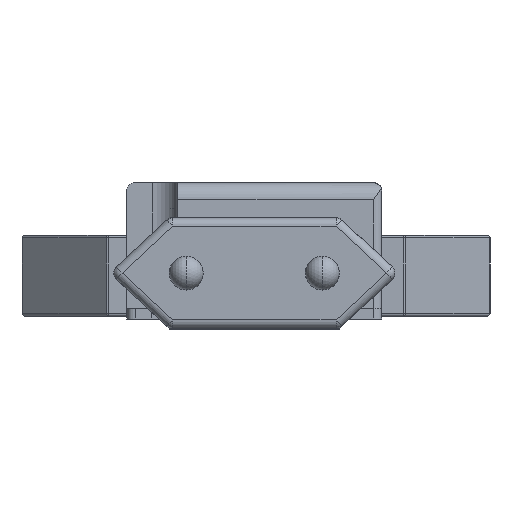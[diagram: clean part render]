
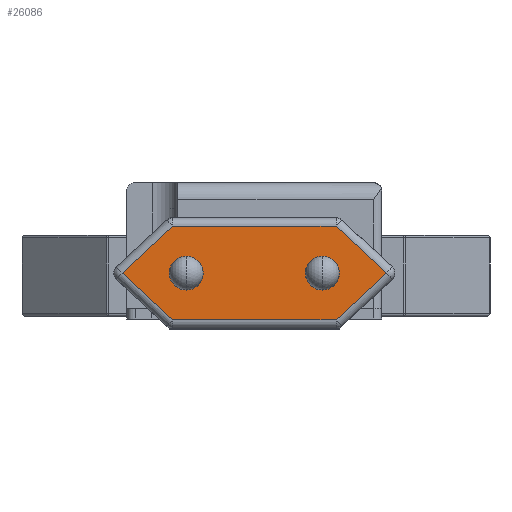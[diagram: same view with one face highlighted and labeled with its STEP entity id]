
A CAD part, left-side view. The second image highlights one B-rep face of the part: STEP entity #26086.
In plain terms, the highlighted planar face has unit normal (-1, 0, 0) as drawn and (0, 0, 1) by its records, which use the part's own axes.
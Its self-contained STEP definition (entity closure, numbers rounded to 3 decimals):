
#190 = CIRCLE ( 'NONE', #29375, 1.9 ) ;
#715 = VERTEX_POINT ( 'NONE', #46221 ) ;
#825 = AXIS2_PLACEMENT_3D ( 'NONE', #38063, #32235, #57549 ) ;
#1167 = EDGE_CURVE ( 'NONE', #27767, #70015, #23312, .T. ) ;
#1350 = EDGE_CURVE ( 'NONE', #15917, #30644, #68240, .T. ) ;
#4083 = CARTESIAN_POINT ( 'NONE',  ( -0.733, 16.32, 68.5 ) ) ;
#4708 = CARTESIAN_POINT ( 'NONE',  ( 0., 8., 68.5 ) ) ;
#4717 = VECTOR ( 'NONE', #8838, 1000. ) ;
#5701 = FACE_BOUND ( 'NONE', #55901, .T. ) ;
#8253 = ORIENTED_EDGE ( 'NONE', *, *, #11962, .F. ) ;
#8838 = DIRECTION ( 'NONE',  ( 0., -1., 0. ) ) ;
#8896 = VECTOR ( 'NONE', #42708, 1000. ) ;
#9582 = EDGE_CURVE ( 'NONE', #31717, #51921, #53265, .T. ) ;
#10552 = CARTESIAN_POINT ( 'NONE',  ( 5.767, -9.32, 68.5 ) ) ;
#10839 = CIRCLE ( 'NONE', #21494, 1.9 ) ;
#11431 = VECTOR ( 'NONE', #67423, 1000. ) ;
#11865 = CARTESIAN_POINT ( 'NONE',  ( 5.5, 9.607, 68.5 ) ) ;
#11941 = CARTESIAN_POINT ( 'NONE',  ( -15.786, 0., 68.5 ) ) ;
#11962 = EDGE_CURVE ( 'NONE', #715, #25317, #51144, .T. ) ;
#13390 = CARTESIAN_POINT ( 'NONE',  ( 0., -8., 68.5 ) ) ;
#13793 = DIRECTION ( 'NONE',  ( -1., 0., 0. ) ) ;
#15441 = DIRECTION ( 'NONE',  ( -0.68, -0.733, 0. ) ) ;
#15917 = VERTEX_POINT ( 'NONE', #44351 ) ;
#16119 = LINE ( 'NONE', #48061, #78056 ) ;
#17391 = EDGE_CURVE ( 'NONE', #25317, #715, #190, .T. ) ;
#17794 = LINE ( 'NONE', #4083, #8896 ) ;
#18199 = FACE_BOUND ( 'NONE', #54566, .T. ) ;
#19584 = ORIENTED_EDGE ( 'NONE', *, *, #9582, .T. ) ;
#20886 = DIRECTION ( 'NONE',  ( 0., 0., 1. ) ) ;
#21331 = CARTESIAN_POINT ( 'NONE',  ( -5.5, -10., 68.5 ) ) ;
#21494 = AXIS2_PLACEMENT_3D ( 'NONE', #4708, #23033, #48311 ) ;
#23033 = DIRECTION ( 'NONE',  ( 0., 0., 1. ) ) ;
#23312 = CIRCLE ( 'NONE', #825, 1.9 ) ;
#23430 = ORIENTED_EDGE ( 'NONE', *, *, #64231, .T. ) ;
#24830 = EDGE_CURVE ( 'NONE', #30644, #61603, #51028, .T. ) ;
#24888 = CARTESIAN_POINT ( 'NONE',  ( -1.9, 8., 68.5 ) ) ;
#25317 = VERTEX_POINT ( 'NONE', #34745 ) ;
#25402 = ORIENTED_EDGE ( 'NONE', *, *, #17391, .F. ) ;
#25985 = AXIS2_PLACEMENT_3D ( 'NONE', #13390, #20886, #13793 ) ;
#26086 = ADVANCED_FACE ( 'NONE', ( #55576, #5701, #18199 ), #68837, .T. ) ;
#27474 = ORIENTED_EDGE ( 'NONE', *, *, #1167, .F. ) ;
#27767 = VERTEX_POINT ( 'NONE', #75980 ) ;
#29375 = AXIS2_PLACEMENT_3D ( 'NONE', #78635, #74022, #42483 ) ;
#30149 = ORIENTED_EDGE ( 'NONE', *, *, #76370, .T. ) ;
#30644 = VERTEX_POINT ( 'NONE', #50737 ) ;
#31297 = EDGE_CURVE ( 'NONE', #51921, #15917, #16119, .T. ) ;
#31717 = VERTEX_POINT ( 'NONE', #48127 ) ;
#32235 = DIRECTION ( 'NONE',  ( 0., 0., 1. ) ) ;
#32550 = ORIENTED_EDGE ( 'NONE', *, *, #24830, .T. ) ;
#34745 = CARTESIAN_POINT ( 'NONE',  ( 1.9, -8., 68.5 ) ) ;
#37297 = DIRECTION ( 'NONE',  ( 0., 0., 1. ) ) ;
#38063 = CARTESIAN_POINT ( 'NONE',  ( 0., 8., 68.5 ) ) ;
#40953 = ORIENTED_EDGE ( 'NONE', *, *, #1350, .T. ) ;
#42483 = DIRECTION ( 'NONE',  ( -1., 0., 0. ) ) ;
#42708 = DIRECTION ( 'NONE',  ( -0.68, 0.733, 0. ) ) ;
#44351 = CARTESIAN_POINT ( 'NONE',  ( 0., -15.53, 68.5 ) ) ;
#46221 = CARTESIAN_POINT ( 'NONE',  ( -1.9, -8., 68.5 ) ) ;
#47487 = VECTOR ( 'NONE', #78014, 1000. ) ;
#48061 = CARTESIAN_POINT ( 'NONE',  ( 0.733, -16.32, 68.5 ) ) ;
#48127 = CARTESIAN_POINT ( 'NONE',  ( -5.5, 9.607, 68.5 ) ) ;
#48311 = DIRECTION ( 'NONE',  ( 1., 0., 0. ) ) ;
#50737 = CARTESIAN_POINT ( 'NONE',  ( 5.5, -9.607, 68.5 ) ) ;
#51028 = LINE ( 'NONE', #76790, #47487 ) ;
#51144 = CIRCLE ( 'NONE', #25985, 1.9 ) ;
#51921 = VERTEX_POINT ( 'NONE', #73923 ) ;
#53265 = LINE ( 'NONE', #21331, #4717 ) ;
#54566 = EDGE_LOOP ( 'NONE', ( #8253, #25402 ) ) ;
#55576 = FACE_OUTER_BOUND ( 'NONE', #62806, .T. ) ;
#55901 = EDGE_LOOP ( 'NONE', ( #81733, #27474 ) ) ;
#56104 = ORIENTED_EDGE ( 'NONE', *, *, #31297, .T. ) ;
#57549 = DIRECTION ( 'NONE',  ( 1., 0., 0. ) ) ;
#58466 = VECTOR ( 'NONE', #15441, 1000. ) ;
#60478 = AXIS2_PLACEMENT_3D ( 'NONE', #11941, #37297, #62597 ) ;
#61307 = CARTESIAN_POINT ( 'NONE',  ( 0., 15.53, 68.5 ) ) ;
#61603 = VERTEX_POINT ( 'NONE', #11865 ) ;
#62597 = DIRECTION ( 'NONE',  ( 1., 0., 0. ) ) ;
#62806 = EDGE_LOOP ( 'NONE', ( #40953, #32550, #23430, #30149, #19584, #56104 ) ) ;
#64231 = EDGE_CURVE ( 'NONE', #61603, #77800, #17794, .T. ) ;
#66096 = CARTESIAN_POINT ( 'NONE',  ( -5.767, 9.32, 68.5 ) ) ;
#67168 = DIRECTION ( 'NONE',  ( 0.68, -0.733, 0. ) ) ;
#67423 = DIRECTION ( 'NONE',  ( 0.68, 0.733, 0. ) ) ;
#68240 = LINE ( 'NONE', #10552, #11431 ) ;
#68837 = PLANE ( 'NONE',  #60478 ) ;
#70015 = VERTEX_POINT ( 'NONE', #24888 ) ;
#72330 = LINE ( 'NONE', #66096, #58466 ) ;
#73923 = CARTESIAN_POINT ( 'NONE',  ( -5.5, -9.607, 68.5 ) ) ;
#74022 = DIRECTION ( 'NONE',  ( 0., 0., 1. ) ) ;
#75980 = CARTESIAN_POINT ( 'NONE',  ( 1.9, 8., 68.5 ) ) ;
#76370 = EDGE_CURVE ( 'NONE', #77800, #31717, #72330, .T. ) ;
#76790 = CARTESIAN_POINT ( 'NONE',  ( 5.5, 10., 68.5 ) ) ;
#77800 = VERTEX_POINT ( 'NONE', #61307 ) ;
#78014 = DIRECTION ( 'NONE',  ( 0., 1., 0. ) ) ;
#78056 = VECTOR ( 'NONE', #67168, 1000. ) ;
#78635 = CARTESIAN_POINT ( 'NONE',  ( 0., -8., 68.5 ) ) ;
#79791 = EDGE_CURVE ( 'NONE', #70015, #27767, #10839, .T. ) ;
#81733 = ORIENTED_EDGE ( 'NONE', *, *, #79791, .F. ) ;
